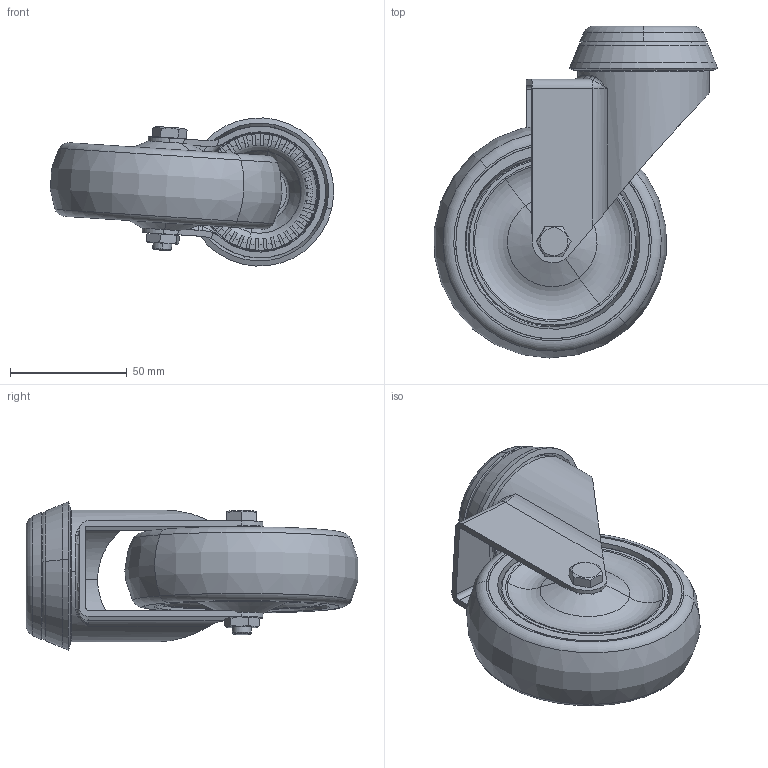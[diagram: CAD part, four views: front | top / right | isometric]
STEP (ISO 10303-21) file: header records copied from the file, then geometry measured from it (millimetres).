
FILE_DESCRIPTION (( 'STEP AP203' ), '1' );
FILE_NAME ('301570_STEP.STEP', '2012-02-27T13:05:56', ( '' ), ( '' ), 'SwSTEP 2.0', 'SolidWorks 2011', '' );
FILE_SCHEMA (( 'CONFIG_CONTROL_DESIGN' ));
Length unit declared in the file: millimetre
Products named in the file (1): 301570_STEP
Bounding box: 121.06 x 141.88 x 63.32 mm (x, y, z)
Surface area: 84796.8 mm2 (no closed solid volume)
Topology: 0 solids, 14 shells, 263 faces, 857 edges, 570 vertices
Faces by surface type: plane 134, cone 54, torus 35, cylinder 32, bspline 8
Entity records: 11098 total; most frequent: CARTESIAN_POINT 3734, DIRECTION 1539, ORIENTED_EDGE 1439, EDGE_CURVE 854, AXIS2_PLACEMENT_3D 603, VERTEX_POINT 570, CIRCLE 347, VECTOR 333
